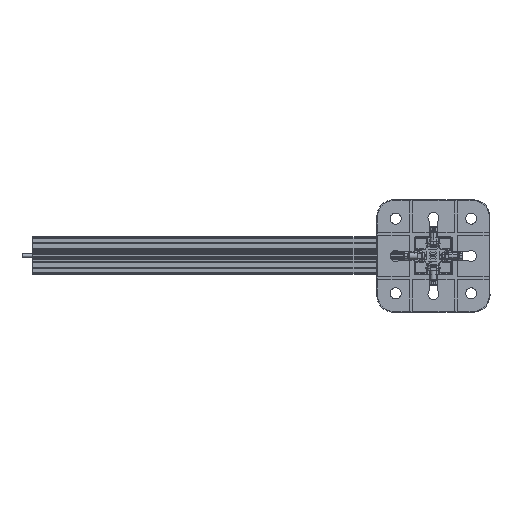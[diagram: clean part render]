
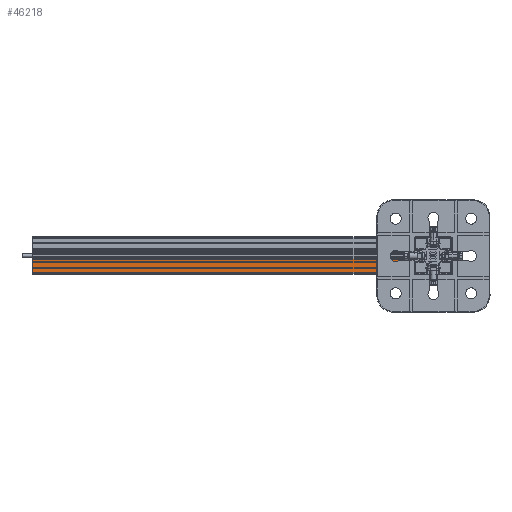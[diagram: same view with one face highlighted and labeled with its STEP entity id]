
A CAD part, front view. The second image highlights one B-rep face of the part: STEP entity #46218.
In plain terms, the highlighted planar face has unit normal (0, -1, 0).
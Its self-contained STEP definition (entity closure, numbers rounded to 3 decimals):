
#2665 = EDGE_CURVE ( 'NONE', #15629, #15457, #3803, .T. ) ;
#3803 = LINE ( 'NONE', #36504, #7521 ) ;
#6319 = FACE_OUTER_BOUND ( 'NONE', #15682, .T. ) ;
#7060 = PLANE ( 'NONE',  #49916 ) ;
#7521 = VECTOR ( 'NONE', #52876, 1000. ) ;
#10267 = LINE ( 'NONE', #53955, #51231 ) ;
#10393 = DIRECTION ( 'NONE',  ( 1., 0., 0. ) ) ;
#10821 = ORIENTED_EDGE ( 'NONE', *, *, #46175, .F. ) ;
#11669 = DIRECTION ( 'NONE',  ( 0., 1., 0. ) ) ;
#12062 = VERTEX_POINT ( 'NONE', #50100 ) ;
#15193 = VERTEX_POINT ( 'NONE', #64801 ) ;
#15371 = LINE ( 'NONE', #59068, #18413 ) ;
#15457 = VERTEX_POINT ( 'NONE', #34797 ) ;
#15629 = VERTEX_POINT ( 'NONE', #19848 ) ;
#15682 = EDGE_LOOP ( 'NONE', ( #10821, #57069, #39288, #17800 ) ) ;
#17358 = CARTESIAN_POINT ( 'NONE',  ( 408.513, 20.09, 1248.457 ) ) ;
#17800 = ORIENTED_EDGE ( 'NONE', *, *, #44567, .T. ) ;
#18058 = CARTESIAN_POINT ( 'NONE',  ( 408.513, 20.09, 1248.457 ) ) ;
#18413 = VECTOR ( 'NONE', #10393, 1000. ) ;
#19848 = CARTESIAN_POINT ( 'NONE',  ( 408.513, 20.09, 1248.457 ) ) ;
#34709 = DIRECTION ( 'NONE',  ( 0., 0., 1. ) ) ;
#34797 = CARTESIAN_POINT ( 'NONE',  ( 408.513, 20.09, 1264.057 ) ) ;
#36504 = CARTESIAN_POINT ( 'NONE',  ( 408.513, 20.09, 1248.457 ) ) ;
#39288 = ORIENTED_EDGE ( 'NONE', *, *, #2665, .F. ) ;
#44567 = EDGE_CURVE ( 'NONE', #15629, #12062, #44625, .T. ) ;
#44625 = LINE ( 'NONE', #18058, #70195 ) ;
#46175 = EDGE_CURVE ( 'NONE', #15193, #12062, #10267, .T. ) ;
#46218 = ADVANCED_FACE ( 'NONE', ( #6319 ), #7060, .F. ) ;
#47043 = EDGE_CURVE ( 'NONE', #15457, #15193, #15371, .T. ) ;
#49916 = AXIS2_PLACEMENT_3D ( 'NONE', #17358, #11669, #34709 ) ;
#50100 = CARTESIAN_POINT ( 'NONE',  ( 863.513, 20.09, 1248.457 ) ) ;
#50697 = DIRECTION ( 'NONE',  ( 1., 0., 0. ) ) ;
#51231 = VECTOR ( 'NONE', #64287, 1000. ) ;
#52876 = DIRECTION ( 'NONE',  ( 0., 0., 1. ) ) ;
#53955 = CARTESIAN_POINT ( 'NONE',  ( 863.513, 20.09, 1248.457 ) ) ;
#57069 = ORIENTED_EDGE ( 'NONE', *, *, #47043, .F. ) ;
#59068 = CARTESIAN_POINT ( 'NONE',  ( 408.513, 20.09, 1264.057 ) ) ;
#64287 = DIRECTION ( 'NONE',  ( 0., 0., -1. ) ) ;
#64801 = CARTESIAN_POINT ( 'NONE',  ( 863.513, 20.09, 1264.057 ) ) ;
#70195 = VECTOR ( 'NONE', #50697, 1000. ) ;
